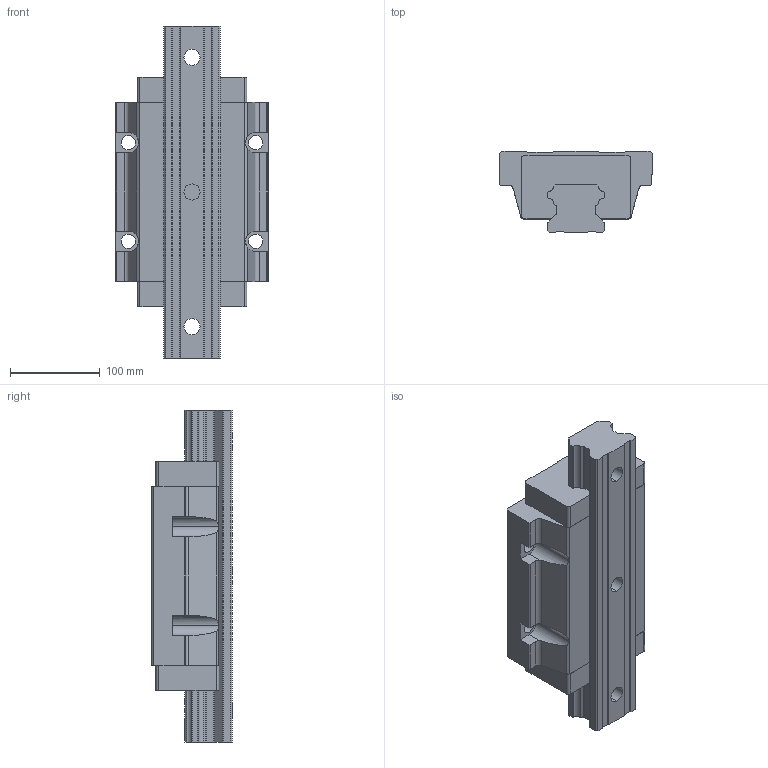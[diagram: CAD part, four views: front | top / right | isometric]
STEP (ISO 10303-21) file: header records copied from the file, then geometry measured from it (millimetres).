
FILE_DESCRIPTION (( 'STEP AP214' ), '1' );
FILE_NAME ('2.1015 Lineaarikelkka HGW65HA.STEP', '2025-09-19T06:44:03', ( '' ), ( '' ), 'SwSTEP 2.0', 'SolidWorks 2025', '' );
FILE_SCHEMA (( 'AUTOMOTIVE_DESIGN' ));
Length unit declared in the file: millimetre
Products named in the file (1): 2.1015 Lineaarikelkka HGW65HA
Bounding box: 170 x 90 x 370 mm (x, y, z)
Volume: 3162098.9 mm3; surface area: 266817.5 mm2
Topology: 2 solids, 2 shells, 192 faces, 547 edges, 362 vertices
Faces by surface type: plane 131, cylinder 61
Entity records: 8503 total; most frequent: CARTESIAN_POINT 1260, ORIENTED_EDGE 1094, DIRECTION 1035, EDGE_CURVE 547, VECTOR 401, LINE 401, VERTEX_POINT 362, AXIS2_PLACEMENT_3D 317
